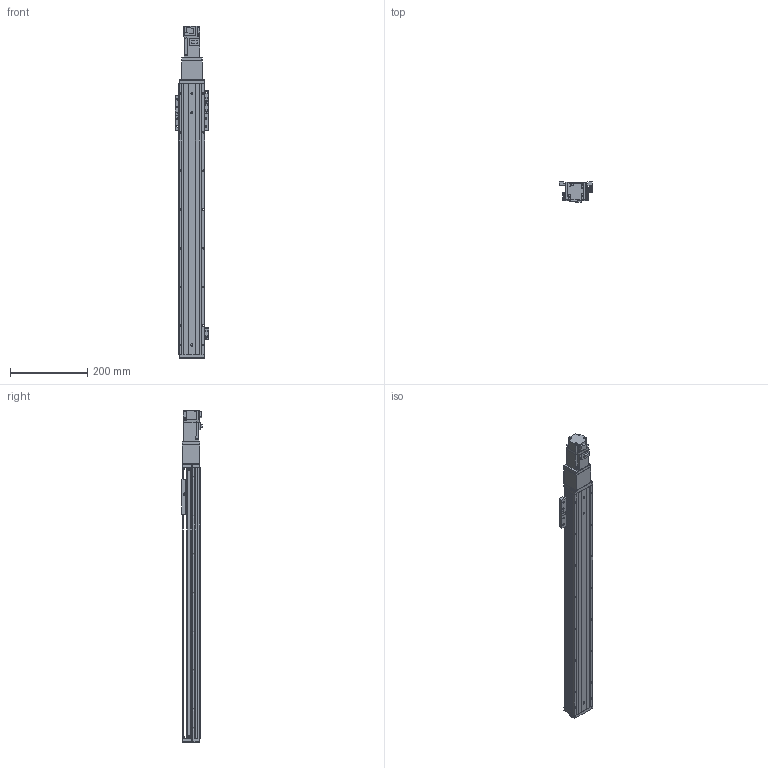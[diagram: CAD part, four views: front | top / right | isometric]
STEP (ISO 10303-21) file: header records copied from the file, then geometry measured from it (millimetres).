
FILE_DESCRIPTION (( 'STEP AP203' ), '1' );
FILE_NAME ('KTHAL60-550-BC-M10-C4L.step', '2022-03-19T08:35:33', ( '微软用户' ), ( '微软中国' ), 'SwSTEP 2.0', 'SolidWorks 2020', '' );
FILE_SCHEMA (( 'CONFIG_CONTROL_DESIGN' ));
Length unit declared in the file: millimetre
Products named in the file (18): KTHAL60-550-BC-M10-C4L; KTHA60-004; GBT 70.1-M4×16; KTHA60-005; GBT77-2000M3-3; GB¨uT 70.2-M3¡Á5_M3¡Á6; GBT 70.1-M3℅6; GBT 70.3-M3℅6; CTHA60-016; EE_SX911P_R; CTHA60-006-2_CTHA60-006-2; CTHA60-013; KTHA60-001_700; CTHA60-017; CTHA60-027; HG-KR13（三菱）; KTHLA60-002; CTHA60-021
Assembly tree (50 placements, depth 2):
  KTHAL60-550-BC-M10-C4L
    KTHA60-001_700
    KTHLA60-002
    KTHA60-004
    KTHA60-005
    GB¨uT 70.2-M3¡Á5_M3¡Á6  x5
    GBT 70.3-M3℅6  x6
    EE_SX911P_R  x3
    CTHA60-017  x3
    CTHA60-021  x2
    GBT 70.1-M4×16  x10
    GBT77-2000M3-3  x6
    GBT 70.1-M3℅6  x6
    CTHA60-016
    CTHA60-006-2_CTHA60-006-2
    CTHA60-027
    CTHA60-013
    HG-KR13（三菱）
Bounding box: 87.82 x 53.3 x 858.6 mm (x, y, z)
Volume: 1524096.8 mm3; surface area: 396105 mm2
Topology: 53 solids, 53 shells, 2220 faces, 5274 edges, 3237 vertices
Faces by surface type: plane 1294, cylinder 531, cone 295, torus 86, sphere 14
Entity records: 37358 total; most frequent: CARTESIAN_POINT 6138, DIRECTION 6020, ORIENTED_EDGE 5752, EDGE_CURVE 2876, LINE 2054, VECTOR 2054, AXIS2_PLACEMENT_3D 1983, VERTEX_POINT 1805
